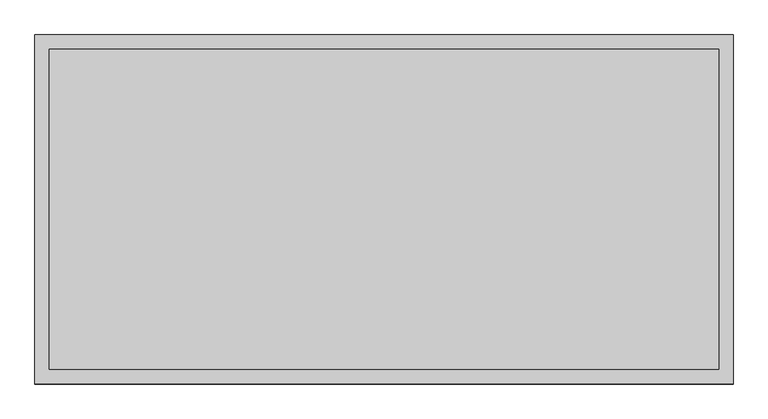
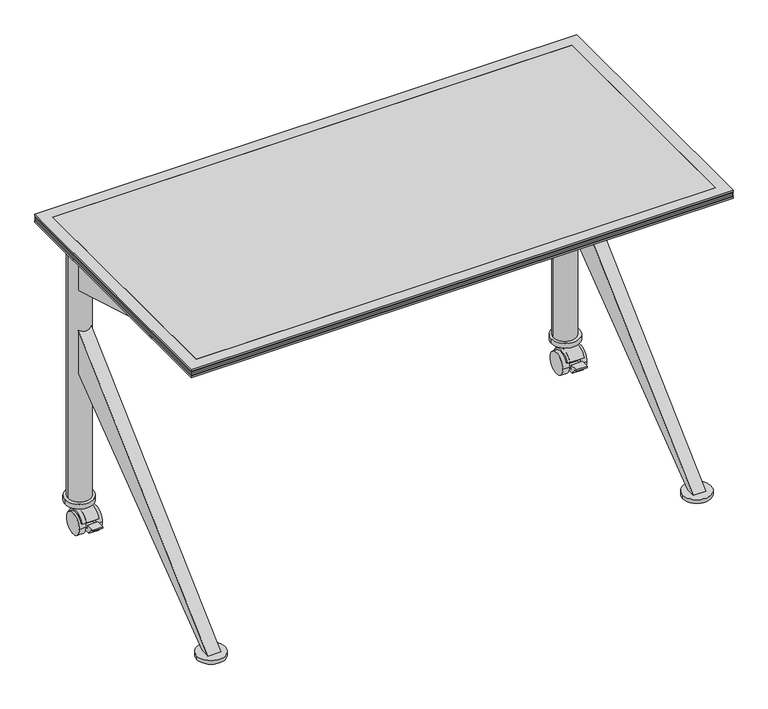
"""IFC4 building model written with IfcOpenShell, lengths in millimetres: furniture geometry, Coalesse_AM_Table_Conference_Ballet_Rectangular_KBase : Non Folding - 48L x 24W."""

from ifc_helpers import new_model, si_unit, point, frame, frame_2d, origin, origin_with_axes, place, context, project, spatial, polyline, circle_curve, trimmed, segment, composite_curve, outline, extrude, faceted_brep, source, transform, mapped, element, save


def furniture_72fba591(model_context):
    return source(origin(), model_context, "Body", "SolidModel", [
        extrude(outline(composite_curve([segment(trimmed(circle_curve(frame_2d((-547.0092495, -273.05)), 25.4), [point((-572.4092495, -273.05))], [point((-521.6092495, -273.05))], False, "CARTESIAN"), True, "CONTINUOUS"), segment(trimmed(circle_curve(frame_2d((-547.0092495, -273.05)), 25.4), [point((-521.6092495, -273.05))], [point((-572.4092495, -273.05))], False, "CARTESIAN"), True, "CONTINUOUS")], self_intersect=False)), origin_with_axes(), (0.0, 0.0, 1.0), 4.2936144),
        extrude(outline(composite_curve([segment(trimmed(circle_curve(frame_2d((546.2624629, -273.05)), 25.4), [point((520.8624629, -273.05))], [point((571.6624629, -273.05))], False, "CARTESIAN"), True, "CONTINUOUS"), segment(trimmed(circle_curve(frame_2d((546.2624629, -273.05)), 25.4), [point((571.6624629, -273.05))], [point((520.8624629, -273.05))], False, "CARTESIAN"), True, "CONTINUOUS")], self_intersect=False)), origin_with_axes(), (0.0, 0.0, 1.0), 4.2936144),
        extrude(outline(composite_curve([segment(polyline([(249.3604217, 14.7931869), (246.4491351, 16.4051117)]), True, "CONTINUOUS"), segment(trimmed(circle_curve(frame_2d((223.0336856, 24.9907393)), 24.9398531), [point((246.4491351, 16.4051117))], [point((200.5459564, 35.7749086))], True, "CARTESIAN"), True, "CONTINUOUS"), segment(polyline([(200.5459564, 35.7749086), (197.1203751, 36.8601197)]), True, "CONTINUOUS"), segment(trimmed(circle_curve(frame_2d((222.3646326, 26.7032164)), 27.2109394), [point((197.1203751, 36.8601197))], [point((233.9847122, 51.3082762))], False, "CARTESIAN"), True, "CONTINUOUS"), segment(trimmed(circle_curve(frame_2d((223.9211664, 25.8930561)), 27.3351124), [point((233.9847122, 51.3082762))], [point((249.3604217, 35.8956886))], False, "CARTESIAN"), True, "CONTINUOUS"), segment(trimmed(circle_curve(frame_2d((222.5258895, 25.3444377)), 28.8343721), [point((249.3604217, 35.8956886))], [point((249.3604217, 14.7931869))], False, "CARTESIAN"), True, "CONTINUOUS")], self_intersect=False)), frame((526.2279182, 0.0, 0.0), z_axis=(1.0, 0.0, 0.0), x_axis=(0.0, 1.0, 0.0)), (0.0, 0.0, 1.0), 37.985857),
        extrude(outline(composite_curve([segment(trimmed(circle_curve(frame_2d((223.0336856, 24.9907393)), 24.9398531), [point((198.0938325, 24.9907393))], [point((247.9735388, 24.9907393))], False, "CARTESIAN"), True, "CONTINUOUS"), segment(trimmed(circle_curve(frame_2d((223.0336856, 24.9907393)), 24.9398531), [point((247.9735388, 24.9907393))], [point((198.0938325, 24.9907393))], False, "CARTESIAN"), True, "CONTINUOUS")], self_intersect=False)), frame((517.0801992, 0.0, 0.0), z_axis=(1.0, 0.0, 0.0), x_axis=(0.0, 1.0, 0.0)), (0.0, 0.0, 1.0), 14.732),
        extrude(outline(composite_curve([segment(polyline([(233.9847122, 63.5225277), (249.3604217, 63.5225277), (249.3604217, 35.8956886)]), True, "CONTINUOUS"), segment(trimmed(circle_curve(frame_2d((222.5258895, 25.3444377)), 28.8343721), [point((249.3604217, 35.8956886))], [point((249.3604217, 14.7931869))], False, "CARTESIAN"), True, "CONTINUOUS"), segment(polyline([(249.3604217, 14.7931869), (235.895607, 22.2484025), (232.8197341, 16.6930892)]), True, "CONTINUOUS"), segment(trimmed(circle_curve(frame_2d((223.127305, 25.0010719)), 12.7658043), [point((232.8197341, 16.6930892))], [point((212.8624455, 17.4117096))], False, "CARTESIAN"), True, "CONTINUOUS"), segment(polyline([(212.8624455, 17.4117096), (187.093848, 17.4117096), (178.1223524, 31.7691038), (171.3969156, 31.7691038), (171.3969156, 35.1210973), (190.4469156, 35.1210973), (190.4469156, 25.0010719), (209.7362269, 25.0010719), (211.9998286, 32.1463658), (197.1203751, 36.8601197)]), True, "CONTINUOUS"), segment(trimmed(circle_curve(frame_2d((222.3646326, 26.7032164)), 27.2109394), [point((197.1203751, 36.8601197))], [point((233.9847122, 51.3082762))], False, "CARTESIAN"), True, "CONTINUOUS"), segment(polyline([(233.9847122, 51.3082762), (233.9847122, 63.5225277)]), True, "CONTINUOUS")], self_intersect=False)), frame((531.8121992, 0.0, 0.0), z_axis=(1.0, 0.0, 0.0), x_axis=(0.0, 1.0, 0.0)), (0.0, 0.0, 1.0), 24.5934543),
        extrude(outline(composite_curve([segment(trimmed(circle_curve(frame_2d((223.0336856, 24.9907393)), 24.9398531), [point((198.0938325, 24.9907393))], [point((247.9735388, 24.9907393))], False, "CARTESIAN"), True, "CONTINUOUS"), segment(trimmed(circle_curve(frame_2d((223.0336856, 24.9907393)), 24.9398531), [point((247.9735388, 24.9907393))], [point((198.0938325, 24.9907393))], False, "CARTESIAN"), True, "CONTINUOUS")], self_intersect=False)), frame((556.4056535, 0.0, 0.0), z_axis=(1.0, 0.0, 0.0), x_axis=(0.0, 1.0, 0.0)), (0.0, 0.0, 1.0), 14.732),
        extrude(outline(composite_curve([segment(trimmed(circle_curve(frame_2d((546.9954026, 240.5212308)), 31.75), [point((578.7454026, 240.5212308))], [point((515.2454026, 240.5212308))], False, "CARTESIAN"), True, "CONTINUOUS"), segment(trimmed(circle_curve(frame_2d((546.9954026, 240.5212308)), 31.75), [point((515.2454026, 240.5212308))], [point((578.7454026, 240.5212308))], False, "CARTESIAN"), True, "CONTINUOUS")], self_intersect=False)), frame((0.0, 0.0, 62.0397209), z_axis=(0.0, 0.0, 1.0), x_axis=(1.0, 0.0, 0.0)), (0.0, 0.0, 1.0), 10.7840801),
        extrude(outline(composite_curve([segment(polyline([(249.3604217, 14.7931869), (246.4491351, 16.4051117)]), True, "CONTINUOUS"), segment(trimmed(circle_curve(frame_2d((223.0336856, 24.9907393)), 24.9398531), [point((246.4491351, 16.4051117))], [point((200.5459564, 35.7749086))], True, "CARTESIAN"), True, "CONTINUOUS"), segment(polyline([(200.5459564, 35.7749086), (197.1203751, 36.8601197)]), True, "CONTINUOUS"), segment(trimmed(circle_curve(frame_2d((222.3646326, 26.7032164)), 27.2109394), [point((197.1203751, 36.8601197))], [point((233.9847122, 51.3082762))], False, "CARTESIAN"), True, "CONTINUOUS"), segment(trimmed(circle_curve(frame_2d((223.9211664, 25.8930561)), 27.3351124), [point((233.9847122, 51.3082762))], [point((249.3604217, 35.8956886))], False, "CARTESIAN"), True, "CONTINUOUS"), segment(trimmed(circle_curve(frame_2d((222.5258895, 25.3444377)), 28.8343721), [point((249.3604217, 35.8956886))], [point((249.3604217, 14.7931869))], False, "CARTESIAN"), True, "CONTINUOUS")], self_intersect=False)), frame((-565.6010267, 0.0, 0.0), z_axis=(1.0, 0.0, 0.0), x_axis=(0.0, 1.0, 0.0)), (0.0, 0.0, 1.0), 37.7563315),
        extrude(outline(composite_curve([segment(trimmed(circle_curve(frame_2d((223.0336856, 24.9907393)), 24.9398531), [point((198.0938325, 24.9907393))], [point((247.9735388, 24.9907393))], False, "CARTESIAN"), True, "CONTINUOUS"), segment(trimmed(circle_curve(frame_2d((223.0336856, 24.9907393)), 24.9398531), [point((247.9735388, 24.9907393))], [point((198.0938325, 24.9907393))], False, "CARTESIAN"), True, "CONTINUOUS")], self_intersect=False)), frame((-533.9822707, 0.0, 0.0), z_axis=(1.0, 0.0, 0.0), x_axis=(0.0, 1.0, 0.0)), (0.0, 0.0, 1.0), 14.732),
        extrude(outline(composite_curve([segment(polyline([(233.9847122, 63.5225277), (249.3604217, 63.5225277), (249.3604217, 35.8956886)]), True, "CONTINUOUS"), segment(trimmed(circle_curve(frame_2d((222.5258895, 25.3444377)), 28.8343721), [point((249.3604217, 35.8956886))], [point((249.3604217, 14.7931869))], False, "CARTESIAN"), True, "CONTINUOUS"), segment(polyline([(249.3604217, 14.7931869), (235.895607, 22.2484025), (232.8197341, 16.6930892)]), True, "CONTINUOUS"), segment(trimmed(circle_curve(frame_2d((223.127305, 25.0010719)), 12.7658043), [point((232.8197341, 16.6930892))], [point((212.8624455, 17.4117096))], False, "CARTESIAN"), True, "CONTINUOUS"), segment(polyline([(212.8624455, 17.4117096), (187.093848, 17.4117096), (178.1223524, 31.7691038), (171.3969156, 31.7691038), (171.3969156, 35.1210973), (190.4469156, 35.1210973), (190.4469156, 25.0010719), (209.7362269, 25.0010719), (211.9998286, 32.1463658), (197.1203751, 36.8601197)]), True, "CONTINUOUS"), segment(trimmed(circle_curve(frame_2d((222.3646326, 26.7032164)), 27.2109394), [point((197.1203751, 36.8601197))], [point((233.9847122, 51.3082762))], False, "CARTESIAN"), True, "CONTINUOUS"), segment(polyline([(233.9847122, 51.3082762), (233.9847122, 63.5225277)]), True, "CONTINUOUS")], self_intersect=False)), frame((-556.4056535, 0.0, 0.0), z_axis=(1.0, 0.0, 0.0), x_axis=(0.0, 1.0, 0.0)), (0.0, 0.0, 1.0), 22.4233828),
        extrude(outline(composite_curve([segment(trimmed(circle_curve(frame_2d((223.0336856, 24.9907393)), 24.9398531), [point((198.0938325, 24.9907393))], [point((247.9735388, 24.9907393))], False, "CARTESIAN"), True, "CONTINUOUS"), segment(trimmed(circle_curve(frame_2d((223.0336856, 24.9907393)), 24.9398531), [point((247.9735388, 24.9907393))], [point((198.0938325, 24.9907393))], False, "CARTESIAN"), True, "CONTINUOUS")], self_intersect=False)), frame((-571.1376535, 0.0, 0.0), z_axis=(1.0, 0.0, 0.0), x_axis=(0.0, 1.0, 0.0)), (0.0, 0.0, 1.0), 14.732),
        extrude(outline(composite_curve([segment(trimmed(circle_curve(frame_2d((-546.9954026, 240.5212308)), 31.75), [point((-578.7454026, 240.5212308))], [point((-515.2454026, 240.5212308))], False, "CARTESIAN"), True, "CONTINUOUS"), segment(trimmed(circle_curve(frame_2d((-546.9954026, 240.5212308)), 31.75), [point((-515.2454026, 240.5212308))], [point((-578.7454026, 240.5212308))], False, "CARTESIAN"), True, "CONTINUOUS")], self_intersect=False)), frame((0.0, 0.0, 62.0397209), z_axis=(0.0, 0.0, 1.0), x_axis=(1.0, 0.0, 0.0)), (0.0, 0.0, 1.0), 10.7840801),
        extrude(outline(composite_curve([segment(trimmed(circle_curve(frame_2d((-546.1003633, 241.3)), 25.4), [point((-571.5003633, 241.3))], [point((-520.7003633, 241.3))], False, "CARTESIAN"), True, "CONTINUOUS"), segment(trimmed(circle_curve(frame_2d((-546.1003633, 241.3)), 25.4), [point((-520.7003633, 241.3))], [point((-571.5003633, 241.3))], False, "CARTESIAN"), True, "CONTINUOUS")], self_intersect=False)), frame((0.0, 0.0, 72.823801), z_axis=(0.0, 0.0, 1.0), x_axis=(1.0, 0.0, 0.0)), (0.0, 0.0, 1.0), 625.6762232),
        extrude(outline(composite_curve([segment(trimmed(circle_curve(frame_2d((546.1003633, 241.3)), 25.4), [point((520.7003633, 241.3))], [point((571.5003633, 241.3))], False, "CARTESIAN"), True, "CONTINUOUS"), segment(trimmed(circle_curve(frame_2d((546.1003633, 241.3)), 25.4), [point((571.5003633, 241.3))], [point((520.7003633, 241.3))], False, "CARTESIAN"), True, "CONTINUOUS")], self_intersect=False)), frame((0.0, 0.0, 72.823801), z_axis=(0.0, 0.0, 1.0), x_axis=(1.0, 0.0, 0.0)), (0.0, 0.0, 1.0), 625.6762232),
        extrude(outline(polyline([(220.2656271, 577.7388634), (-193.674901, 698.5000242), (-161.924901, 698.5000242), (220.2656271, 641.3500242), (220.2656271, 577.7388634)])), frame((-560.4007845, 0.0, 0.0), z_axis=(1.0, 0.0, 0.0), x_axis=(0.0, 1.0, 0.0)), (0.0, 0.0, 1.0), 28.5877899),
        extrude(outline(polyline([(220.2656271, 381.0), (-261.9375951, 12.7), (-284.1624013, 12.7), (220.2656271, 482.7111245), (220.2656271, 381.0)])), frame((-560.4007845, 0.0, 0.0), z_axis=(1.0, 0.0, 0.0), x_axis=(0.0, 1.0, 0.0)), (0.0, 0.0, 1.0), 28.5877899),
        extrude(outline(polyline([(220.2656271, 577.7388634), (-193.674901, 698.5000242), (-161.924901, 698.5000242), (220.2656271, 641.3500242), (220.2656271, 577.7388634)])), frame((531.8121992, 0.0, 0.0), z_axis=(1.0, 0.0, 0.0), x_axis=(0.0, 1.0, 0.0)), (0.0, 0.0, 1.0), 28.575),
        extrude(outline(polyline([(220.2656271, 381.0), (-261.9375951, 12.7), (-284.1624013, 12.7), (220.2656271, 482.7111245), (220.2656271, 381.0)])), frame((531.8121992, 0.0, 0.0), z_axis=(1.0, 0.0, 0.0), x_axis=(0.0, 1.0, 0.0)), (0.0, 0.0, 1.0), 28.575),
        extrude(outline(composite_curve([segment(trimmed(circle_curve(frame_2d((-547.0092495, -273.05)), 31.75), [point((-578.7592495, -273.05))], [point((-515.2592495, -273.05))], False, "CARTESIAN"), True, "CONTINUOUS"), segment(trimmed(circle_curve(frame_2d((-547.0092495, -273.05)), 31.75), [point((-515.2592495, -273.05))], [point((-578.7592495, -273.05))], False, "CARTESIAN"), True, "CONTINUOUS")], self_intersect=False)), frame((0.0, 0.0, 4.2936144), z_axis=(0.0, 0.0, 1.0), x_axis=(1.0, 0.0, 0.0)), (0.0, 0.0, 1.0), 8.4063856),
        extrude(outline(composite_curve([segment(trimmed(circle_curve(frame_2d((546.2624629, -273.05)), 31.75), [point((514.5124629, -273.05))], [point((578.0124629, -273.05))], False, "CARTESIAN"), True, "CONTINUOUS"), segment(trimmed(circle_curve(frame_2d((546.2624629, -273.05)), 31.75), [point((578.0124629, -273.05))], [point((514.5124629, -273.05))], False, "CARTESIAN"), True, "CONTINUOUS")], self_intersect=False)), frame((0.0, 0.0, 4.2936144), z_axis=(0.0, 0.0, 1.0), x_axis=(1.0, 0.0, 0.0)), (0.0, 0.0, 1.0), 8.4063856),
        faceted_brep([(-609.6003633, 304.8, 704.85), (-584.2003876, 279.4000242, 698.5000242), (-584.2003876, -279.3999516, 698.5000242), (-609.6003633, -304.7999273, 704.85), (-609.6003633, 304.8, 708.0250242), (-609.6003633, -304.7999273, 708.0250242), (-606.4253755, 301.6250121, 709.6125), (-606.4253755, -301.6249394, 709.6125), (-609.6003633, 304.8, 711.1999758), (-609.6003633, -304.7999273, 711.1999758), (-606.4253755, 301.6250121, 712.7875242), (-606.4253755, -301.6249394, 712.7875242), (-609.6003633, 304.8, 714.375), (-609.6003633, -304.7999273, 714.375), (-606.4253755, 301.6250121, 715.9624758), (-606.4253755, -301.6249394, 715.9624758), (-609.6003633, 304.8, 717.5500242), (-609.6003633, -304.7999273, 717.5500242), (-606.4253755, 301.6250121, 719.1375), (-606.4253755, -301.6249394, 719.1375), (-609.6003633, 304.8, 720.7249758), (-609.6003633, -304.7999273, 720.7249758), (-609.6003633, 304.8, 723.9), (-609.6003633, -304.7999273, 723.9), (-584.2003876, 279.4000242, 723.9), (-584.2003876, -279.3999516, 723.9), (584.1998062, -279.3999516, 698.5000242), (609.599782, -304.7999273, 704.85), (609.599782, -304.7999273, 708.0250242), (606.4247941, -301.6249394, 709.6125), (609.599782, -304.7999273, 711.1999758), (606.4247941, -301.6249394, 712.7875242), (609.599782, -304.7999273, 714.375), (606.4247941, -301.6249394, 715.9624758), (609.599782, -304.7999273, 717.5500242), (606.4247941, -301.6249394, 719.1375), (609.599782, -304.7999273, 720.7249758), (609.599782, -304.7999273, 723.9), (584.1998062, -279.3999516, 723.9), (584.1998062, 279.4000242, 698.5000242), (609.599782, 304.8, 704.85), (609.599782, 304.8, 708.0250242), (606.4247941, 301.6250121, 709.6125), (609.599782, 304.8, 711.1999758), (606.4247941, 301.6250121, 712.7875242), (609.599782, 304.8, 714.375), (606.4247941, 301.6250121, 715.9624758), (609.599782, 304.8, 717.5500242), (606.4247941, 301.6250121, 719.1375), (609.599782, 304.8, 720.7249758), (609.599782, 304.8, 723.9), (584.1998062, 279.4000242, 723.9)], [[[0, 1, 2, 3]], [[4, 0, 3, 5]], [[6, 4, 5, 7]], [[8, 6, 7, 9]], [[10, 8, 9, 11]], [[12, 10, 11, 13]], [[14, 12, 13, 15]], [[16, 14, 15, 17]], [[18, 16, 17, 19]], [[20, 18, 19, 21]], [[22, 20, 21, 23]], [[1, 24, 25, 2]], [[3, 2, 26, 27]], [[5, 3, 27, 28]], [[7, 5, 28, 29]], [[9, 7, 29, 30]], [[11, 9, 30, 31]], [[13, 11, 31, 32]], [[15, 13, 32, 33]], [[17, 15, 33, 34]], [[19, 17, 34, 35]], [[21, 19, 35, 36]], [[23, 21, 36, 37]], [[2, 25, 38, 26]], [[27, 26, 39, 40]], [[28, 27, 40, 41]], [[29, 28, 41, 42]], [[30, 29, 42, 43]], [[31, 30, 43, 44]], [[32, 31, 44, 45]], [[33, 32, 45, 46]], [[34, 33, 46, 47]], [[35, 34, 47, 48]], [[36, 35, 48, 49]], [[37, 36, 49, 50]], [[26, 38, 51, 39]], [[40, 39, 1, 0]], [[41, 40, 0, 4]], [[42, 41, 4, 6]], [[43, 42, 6, 8]], [[44, 43, 8, 10]], [[45, 44, 10, 12]], [[46, 45, 12, 14]], [[47, 46, 14, 16]], [[48, 47, 16, 18]], [[49, 48, 18, 20]], [[50, 49, 20, 22]], [[23, 37, 50, 22], [24, 51, 38, 25]], [[39, 51, 24, 1]]]),
        extrude(outline(polyline([(584.1998062, 279.4000242), (584.1998062, -279.3999516), (-584.2003876, -279.3999516), (-584.2003876, 279.4000242), (584.1998062, 279.4000242)])), frame((0.0, 0.0, 704.85), z_axis=(0.0, 0.0, 1.0), x_axis=(1.0, 0.0, 0.0)), (0.0, 0.0, 1.0), 19.05),
    ])


if __name__ == "__main__":
    model = new_model("IFC4")
    model_context = context("Model", 3, world=origin())
    ifc_project = project(units=[si_unit("LENGTHUNIT", "METRE", prefix="MILLI")], contexts=[model_context])
    site = spatial("IfcSite", under=ifc_project)
    building = spatial("IfcBuilding", under=site)
    placement = place(None, origin())
    furniture_shape = furniture_72fba591(model_context)
    element("IfcFurniture", 1, ObjectType="Coalesse_AM_Table_Conference_Ballet_Rectangular_KBase : Non Folding - 48L x 24W", at=placement, inside=building, context=model_context, shape_type="MappedRepresentation", body=[
        mapped(furniture_shape, transform((0.0, 0.0, 0.0), x_axis=(1.0, 0.0, 0.0), y_axis=(0.0, 1.0, 0.0), z_axis=(0.0, 0.0, 1.0))),
    ])
    save(model, "model.ifc")
